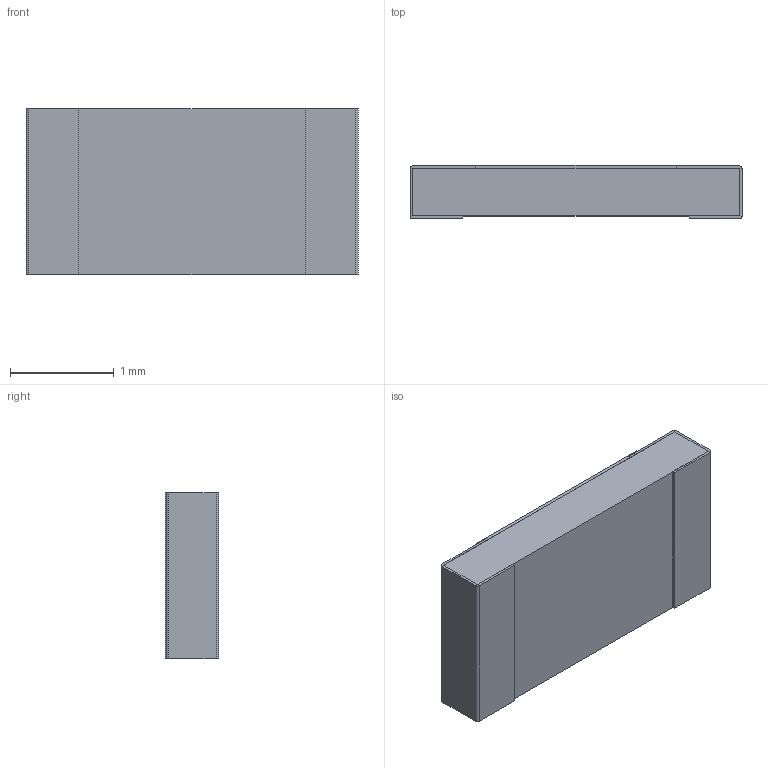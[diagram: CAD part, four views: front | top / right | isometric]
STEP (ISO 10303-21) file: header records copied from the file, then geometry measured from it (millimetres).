
FILE_DESCRIPTION(/* description */ (''),/* implementation_level */ '2;1');
FILE_NAME(/* name */ 'C:\Users\Public\Documents\Autodesk\Inventor LT 2014\Workspace\Vishay\STEP Files\M55342-07.stp',/* time_stamp */ '2019-09-11T15:08:07-05:00',/* author */ ('Neil'),/* organization */ (''),/* preprocessor_version */ 'ST-DEVELOPER v15.2',/* originating_system */ 'Autodesk Inventor LT ',/* authorisation */ '');
FILE_SCHEMA (('AUTOMOTIVE_DESIGN { 1 0 10303 214 3 1 1 }'));
Length unit declared in the file: inch
Products named in the file (1): M55342-07
Bounding box: 3.2 x 0.52 x 1.6 mm (x, y, z)
Volume: 2.5 mm3; surface area: 36.8 mm2
Topology: 5 solids, 5 shells, 50 faces, 120 edges, 80 vertices
Faces by surface type: plane 46, cylinder 4
Entity records: 1482 total; most frequent: CARTESIAN_POINT 251, ORIENTED_EDGE 240, DIRECTION 230, EDGE_CURVE 120, LINE 112, VECTOR 112, VERTEX_POINT 80, AXIS2_PLACEMENT_3D 59
